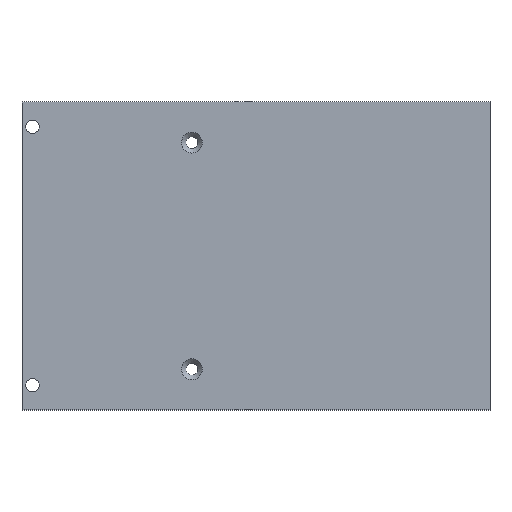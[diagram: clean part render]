
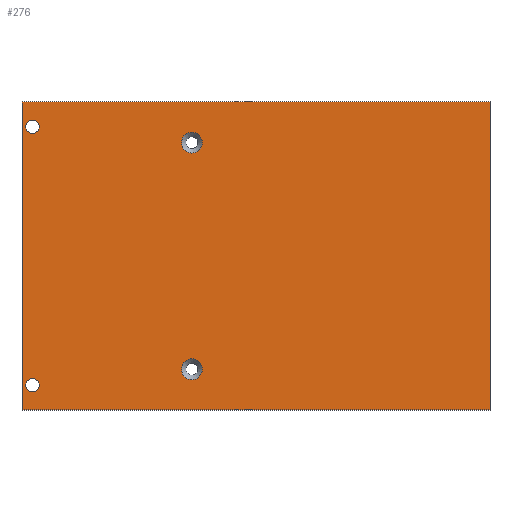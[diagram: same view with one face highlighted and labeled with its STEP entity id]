
A CAD part, top view. The second image highlights one B-rep face of the part: STEP entity #276.
In plain terms, the highlighted planar face has unit normal (0, 0, 1).
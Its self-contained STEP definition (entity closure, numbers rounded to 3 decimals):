
#34=FACE_BOUND('',#81,.T.);
#35=FACE_BOUND('',#82,.T.);
#36=FACE_BOUND('',#83,.T.);
#37=FACE_BOUND('',#84,.T.);
#46=PLANE('',#322);
#66=FACE_OUTER_BOUND('',#80,.T.);
#80=EDGE_LOOP('',(#246,#247,#248,#249));
#81=EDGE_LOOP('',(#250));
#82=EDGE_LOOP('',(#251));
#83=EDGE_LOOP('',(#252));
#84=EDGE_LOOP('',(#253));
#98=LINE('',#454,#118);
#102=LINE('',#462,#122);
#105=LINE('',#468,#125);
#108=LINE('',#473,#128);
#118=VECTOR('',#380,10.);
#122=VECTOR('',#386,10.);
#125=VECTOR('',#391,10.);
#128=VECTOR('',#396,10.);
#136=CIRCLE('',#309,2.95);
#137=CIRCLE('',#311,2.95);
#139=CIRCLE('',#314,1.9);
#141=CIRCLE('',#317,1.9);
#152=VERTEX_POINT('',#432);
#153=VERTEX_POINT('',#436);
#155=VERTEX_POINT('',#442);
#157=VERTEX_POINT('',#448);
#158=VERTEX_POINT('',#452);
#159=VERTEX_POINT('',#453);
#162=VERTEX_POINT('',#461);
#164=VERTEX_POINT('',#467);
#176=EDGE_CURVE('',#152,#152,#136,.T.);
#178=EDGE_CURVE('',#153,#153,#137,.T.);
#182=EDGE_CURVE('',#155,#155,#139,.T.);
#185=EDGE_CURVE('',#157,#157,#141,.T.);
#186=EDGE_CURVE('',#158,#159,#98,.T.);
#190=EDGE_CURVE('',#159,#162,#102,.T.);
#193=EDGE_CURVE('',#162,#164,#105,.T.);
#196=EDGE_CURVE('',#164,#158,#108,.T.);
#246=ORIENTED_EDGE('',*,*,#196,.T.);
#247=ORIENTED_EDGE('',*,*,#186,.T.);
#248=ORIENTED_EDGE('',*,*,#190,.T.);
#249=ORIENTED_EDGE('',*,*,#193,.T.);
#250=ORIENTED_EDGE('',*,*,#176,.T.);
#251=ORIENTED_EDGE('',*,*,#178,.T.);
#252=ORIENTED_EDGE('',*,*,#185,.T.);
#253=ORIENTED_EDGE('',*,*,#182,.T.);
#276=ADVANCED_FACE('',(#66,#34,#35,#36,#37),#46,.T.);
#309=AXIS2_PLACEMENT_3D('',#433,#356,#357);
#311=AXIS2_PLACEMENT_3D('',#437,#361,#362);
#314=AXIS2_PLACEMENT_3D('',#444,#369,#370);
#317=AXIS2_PLACEMENT_3D('',#450,#376,#377);
#322=AXIS2_PLACEMENT_3D('',#475,#398,#399);
#356=DIRECTION('center_axis',(0.,0.,-1.));
#357=DIRECTION('ref_axis',(1.,0.,0.));
#361=DIRECTION('center_axis',(0.,0.,-1.));
#362=DIRECTION('ref_axis',(1.,0.,0.));
#369=DIRECTION('center_axis',(0.,0.,-1.));
#370=DIRECTION('ref_axis',(-1.,0.,0.));
#376=DIRECTION('center_axis',(0.,0.,-1.));
#377=DIRECTION('ref_axis',(-1.,0.,0.));
#380=DIRECTION('',(0.,-1.,0.));
#386=DIRECTION('',(1.,0.,0.));
#391=DIRECTION('',(0.,1.,0.));
#396=DIRECTION('',(-1.,0.,0.));
#398=DIRECTION('center_axis',(0.,0.,1.));
#399=DIRECTION('ref_axis',(1.,0.,0.));
#432=CARTESIAN_POINT('',(-21.05,32.,0.));
#433=CARTESIAN_POINT('Origin',(-18.1,32.,0.));
#436=CARTESIAN_POINT('',(-21.05,-32.,0.));
#437=CARTESIAN_POINT('Origin',(-18.1,-32.,0.));
#442=CARTESIAN_POINT('',(-61.2,-36.5,0.));
#444=CARTESIAN_POINT('Origin',(-63.1,-36.5,0.));
#448=CARTESIAN_POINT('',(-61.2,36.5,0.));
#450=CARTESIAN_POINT('Origin',(-63.1,36.5,0.));
#452=CARTESIAN_POINT('',(-66.1,43.5,0.));
#453=CARTESIAN_POINT('',(-66.1,-43.5,0.));
#454=CARTESIAN_POINT('',(-66.1,43.5,0.));
#461=CARTESIAN_POINT('',(66.1,-43.5,0.));
#462=CARTESIAN_POINT('',(-66.1,-43.5,0.));
#467=CARTESIAN_POINT('',(66.1,43.5,0.));
#468=CARTESIAN_POINT('',(66.1,-43.5,0.));
#473=CARTESIAN_POINT('',(66.1,43.5,0.));
#475=CARTESIAN_POINT('Origin',(0.,0.,0.));
